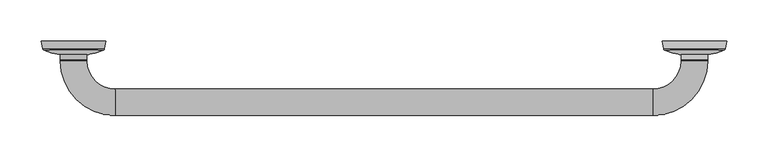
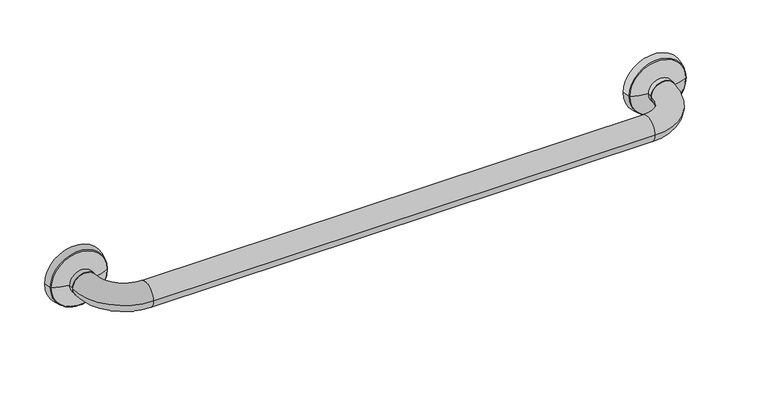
"""IFC4 building model written with IfcOpenShell, lengths in millimetres: proxy geometry, Grab Rail_Metlam_Straight_Horizontal : 782long x 90d x 32h (ML332SS)."""

from ifc_helpers import new_model, si_unit, point, frame, origin, place, context, project, spatial, polyline, circle_curve, ellipse_curve, trimmed, source, transform, mapped, element, save
from ifc_brep_helpers import plane_surface, cylinder_surface, revolved_surface, advanced_brep


def specialty_equipment_b467d5ad(model_context):
    return source(origin(), model_context, "Body", "AdvancedBrep", [
        advanced_brep(
        [(89.0, -58.0, 784.0), (55.0, -24.0, 784.0), (23.0, -24.0, 784.0), (89.0, -90.0, 784.0), (739.0, -90.0, 784.0), (739.0, -58.0, 784.0), (805.0, -24.0, 784.0), (773.0, -24.0, 784.0), (55.0, -23.0, 784.0), (23.0, -23.0, 784.0), (805.0, -23.0, 784.0), (773.0, -23.0, 784.0), (0.0, 0.0, 784.0), (78.0, 0.0, 784.0), (76.1870729, -9.0646354, 784.0), (1.8129271, -9.0646354, 784.0), (2.8615925, -10.4521085, 784.0), (75.1384075, -10.4521085, 784.0), (55.0, -16.0065539, 784.0), (23.0, -16.0065539, 784.0), (39.0, 0.0, 784.0), (828.0, 0.0, 784.0), (750.0, 0.0, 784.0), (789.0, 0.0, 784.0), (826.1870729, -9.0646354, 784.0), (751.8129271, -9.0646354, 784.0), (805.0, -16.0065539, 784.0), (773.0, -16.0065539, 784.0), (752.8615925, -10.4521085, 784.0), (825.1384075, -10.4521085, 784.0)],
        [
            (0, 1, circle_curve(frame((89.0, -24.0, 784.0), z_axis=(0.0, 0.0, -1.0), x_axis=(-1.0, 0.0, 0.0)), 34.0)),
            (1, 2, circle_curve(frame((39.0, -24.0, 784.0), z_axis=(0.0, -1.0, 0.0), x_axis=(1.0, 0.0, 0.0)), 16.0)),
            (2, 3, circle_curve(frame((89.0, -24.0, 784.0), z_axis=(0.0, 0.0, 1.0), x_axis=(-1.0, 0.0, 0.0)), 66.0)),
            (3, 0, circle_curve(frame((89.0, -74.0, 784.0), z_axis=(-1.0, 1.825290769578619e-12, 0.0), x_axis=(1.825290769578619e-12, 1.0, 0.0)), 16.0)),
            (0, 3, circle_curve(frame((89.0, -74.0, 784.0), z_axis=(-1.0, 3.5350342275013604e-12, 0.0), x_axis=(3.5350342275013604e-12, 1.0, 0.0)), 16.0)),
            (2, 1, circle_curve(frame((39.0, -24.0, 784.0), z_axis=(0.0, -1.0, 0.0), x_axis=(1.0, 0.0, 0.0)), 16.0)),
            (3, 4),
            (4, 5, circle_curve(frame((739.0, -74.0, 784.0), z_axis=(-1.0, 0.0, 0.0), x_axis=(0.0, 1.0, 0.0)), 16.0)),
            (5, 0),
            (5, 4, circle_curve(frame((739.0, -74.0, 784.0), z_axis=(-1.0, 0.0, 0.0), x_axis=(0.0, 1.0, 0.0)), 16.0)),
            (4, 6, circle_curve(frame((739.0, -24.0, 784.0), z_axis=(0.0, 0.0, 1.0), x_axis=(0.0, -1.0, 0.0)), 66.0)),
            (6, 7, circle_curve(frame((789.0, -24.0, 784.0), z_axis=(0.0, -1.0, 0.0), x_axis=(-1.0, 0.0, 0.0)), 16.0)),
            (7, 5, circle_curve(frame((739.0, -24.0, 784.0), z_axis=(0.0, 0.0, -1.0), x_axis=(0.0, -1.0, 0.0)), 34.0)),
            (7, 6, circle_curve(frame((789.0, -24.0, 784.0), z_axis=(0.0, -1.0, 0.0), x_axis=(-1.0, 0.0, 0.0)), 16.0)),
            (1, 8),
            (8, 9, circle_curve(frame((39.0, -23.0, 784.0), z_axis=(0.0, -1.0, 0.0), x_axis=(1.0, 0.0, 0.0)), 16.0)),
            (9, 2),
            (9, 8, circle_curve(frame((39.0, -23.0, 784.0), z_axis=(0.0, -1.0, 0.0), x_axis=(1.0, 0.0, 0.0)), 16.0)),
            (6, 10),
            (10, 11, circle_curve(frame((789.0, -23.0, 784.0), z_axis=(0.0, -1.0, 0.0), x_axis=(-1.0, 0.0, 0.0)), 16.0)),
            (11, 7),
            (11, 10, circle_curve(frame((789.0, -23.0, 784.0), z_axis=(0.0, -1.0, 0.0), x_axis=(-1.0, 0.0, 0.0)), 16.0)),
            (12, 13, circle_curve(frame((39.0, 0.0, 784.0), z_axis=(0.0, -1.0, 0.0), x_axis=(1.0, 0.0, 0.0)), 39.0)),
            (13, 14),
            (14, 15, circle_curve(frame((39.0, -9.0646354, 784.0), z_axis=(0.0, 1.0, 0.0), x_axis=(1.0, 0.0, 0.0)), 37.1870729)),
            (15, 12),
            (13, 12, circle_curve(frame((39.0, 0.0, 784.0), z_axis=(0.0, -1.0, 0.0), x_axis=(1.0, 0.0, 0.0)), 39.0)),
            (15, 14, circle_curve(frame((39.0, -9.0646354, 784.0), z_axis=(0.0, 1.0, 0.0), x_axis=(1.0, 0.0, 0.0)), 37.1870729)),
            (16, 17, circle_curve(frame((39.0, -10.4521085, 784.0), z_axis=(0.0, -1.0, 0.0), x_axis=(1.0, 0.0, 0.0)), 36.1384075)),
            (17, 18, circle_curve(frame((51.6887092, 35.2834961, 784.0), z_axis=(0.0, 0.0, -1.0), x_axis=(-1.0, 0.0, 0.0)), 51.3968275)),
            (18, 19, circle_curve(frame((39.0, -16.0065539, 784.0), z_axis=(0.0, 1.0, 0.0), x_axis=(1.0, 0.0, 0.0)), 16.0)),
            (19, 16, circle_curve(frame((26.3112908, 35.2834961, 784.0), z_axis=(0.0, 0.0, -1.0), x_axis=(1.0, 0.0, 0.0)), 51.3968275)),
            (17, 16, circle_curve(frame((39.0, -10.4521085, 784.0), z_axis=(0.0, -1.0, 0.0), x_axis=(1.0, 0.0, 0.0)), 36.1384075)),
            (19, 18, circle_curve(frame((39.0, -16.0065539, 784.0), z_axis=(0.0, 1.0, 0.0), x_axis=(1.0, 0.0, 0.0)), 16.0)),
            (18, 8),
            (9, 19),
            (12, 20),
            (20, 13),
            (14, 17, circle_curve(frame((74.2259116, -8.6724031, 784.0), z_axis=(0.0, 0.0, -1.0), x_axis=(-1.0, 0.0, 0.0)), 2.0)),
            (16, 15, circle_curve(frame((3.7740884, -8.6724031, 784.0), z_axis=(0.0, 0.0, -1.0), x_axis=(1.0, 0.0, 0.0)), 2.0)),
            (21, 22, circle_curve(frame((789.0, 0.0, 784.0), z_axis=(0.0, 1.0, 0.0), x_axis=(-1.0, 0.0, 0.0)), 39.0)),
            (22, 23),
            (23, 21),
            (22, 21, circle_curve(frame((789.0, 0.0, 784.0), z_axis=(0.0, 1.0, 0.0), x_axis=(-1.0, 0.0, 0.0)), 39.0)),
            (21, 24),
            (24, 25, circle_curve(frame((789.0, -9.0646354, 784.0), z_axis=(0.0, 1.0, 0.0), x_axis=(-1.0, 0.0, 0.0)), 37.1870729)),
            (25, 22),
            (25, 24, circle_curve(frame((789.0, -9.0646354, 784.0), z_axis=(0.0, 1.0, 0.0), x_axis=(-1.0, 0.0, 0.0)), 37.1870729)),
            (26, 27, circle_curve(frame((789.0, -16.0065539, 784.0), z_axis=(0.0, 1.0, 0.0), x_axis=(-1.0, 0.0, 0.0)), 16.0)),
            (27, 28, circle_curve(frame((776.3112908, 35.2834961, 784.0), z_axis=(0.0, 0.0, -1.0), x_axis=(-1.0, 0.0, 0.0)), 51.3968275)),
            (28, 29, circle_curve(frame((789.0, -10.4521085, 784.0), z_axis=(0.0, -1.0, 0.0), x_axis=(-1.0, 0.0, 0.0)), 36.1384075)),
            (29, 26, circle_curve(frame((801.6887092, 35.2834961, 784.0), z_axis=(0.0, 0.0, -1.0), x_axis=(1.0, 0.0, 0.0)), 51.3968275)),
            (27, 26, circle_curve(frame((789.0, -16.0065539, 784.0), z_axis=(0.0, 1.0, 0.0), x_axis=(-1.0, 0.0, 0.0)), 16.0)),
            (29, 28, circle_curve(frame((789.0, -10.4521085, 784.0), z_axis=(0.0, -1.0, 0.0), x_axis=(-1.0, 0.0, 0.0)), 36.1384075)),
            (26, 10),
            (11, 27),
            (24, 29, circle_curve(frame((824.2259116, -8.6724031, 784.0), z_axis=(0.0, 0.0, -1.0), x_axis=(1.0, 0.0, 0.0)), 2.0)),
            (28, 25, circle_curve(frame((753.7740884, -8.6724031, 784.0), z_axis=(0.0, 0.0, -1.0), x_axis=(-1.0, 0.0, 0.0)), 2.0)),
        ],
        [
            revolved_surface(trimmed(ellipse_curve(frame((39.0, -24.0, 784.0), z_axis=(0.0, 1.0, 0.0), x_axis=(1.0, 0.0, 0.0)), 16.0, 16.0), [point((23.0, -24.0, 784.0))], [point((55.0, -24.0, 784.0))], True, "CARTESIAN"), (89.0, -24.0, 784.0), (0.0, 0.0, 1.0)),
            revolved_surface(trimmed(ellipse_curve(frame((39.0, -24.0, 784.0), z_axis=(0.0, 1.0, 0.0), x_axis=(1.0, 0.0, 0.0)), 16.0, 16.0), [point((55.0, -24.0, 784.0))], [point((23.0, -24.0, 784.0))], True, "CARTESIAN"), (89.0, -24.0, 784.0), (0.0, 0.0, 1.0)),
            cylinder_surface(frame((89.0, -74.0, 784.0), z_axis=(-1.0, 0.0, 0.0), x_axis=(0.0, 1.0, 0.0)), 16.0),
            revolved_surface(trimmed(ellipse_curve(frame((739.0, -74.0, 784.0), z_axis=(-1.0, 0.0, 0.0), x_axis=(0.0, 1.0, 0.0)), 16.0, 16.0), [point((739.0, -90.0, 784.0))], [point((739.0, -58.0, 784.0))], True, "CARTESIAN"), (739.0, -24.0, 784.0), (0.0, 0.0, 1.0)),
            revolved_surface(trimmed(ellipse_curve(frame((739.0, -74.0, 784.0), z_axis=(-1.0, 0.0, 0.0), x_axis=(0.0, 1.0, 0.0)), 16.0, 16.0), [point((739.0, -58.0, 784.0))], [point((739.0, -90.0, 784.0))], True, "CARTESIAN"), (739.0, -24.0, 784.0), (0.0, 0.0, 1.0)),
            cylinder_surface(frame((39.0, -23.0, 784.0), z_axis=(0.0, 1.0, 0.0), x_axis=(1.0, 0.0, 0.0)), 16.0),
            cylinder_surface(frame((789.0, -24.0, 784.0), z_axis=(0.0, -1.0, 0.0), x_axis=(-1.0, 0.0, 0.0)), 16.0),
            revolved_surface(polyline([(76.1870729, -9.0646354, 784.0), (78.0, 0.0, 784.0)]), (39.0, -10.0, 784.0), (0.0, 1.0, 0.0)),
            revolved_surface(trimmed(ellipse_curve(frame((51.6887092, 35.2834961, 784.0), z_axis=(0.0, 0.0, 1.0), x_axis=(-1.0, 0.0, 0.0)), 51.3968275, 51.3968275), [point((55.0, -16.0065539, 784.0))], [point((75.1384075, -10.4521085, 784.0))], True, "CARTESIAN"), (39.0, -10.0, 784.0), (0.0, 1.0, 0.0)),
            cylinder_surface(frame((39.0, -10.0, 784.0), z_axis=(0.0, 1.0, 0.0), x_axis=(1.0, 0.0, 0.0)), 16.0),
            plane_surface(frame((39.0, 0.0, 784.0), z_axis=(0.0, 1.0, 0.0), x_axis=(1.0, 0.0, 0.0))),
            revolved_surface(trimmed(ellipse_curve(frame((74.2259116, -8.6724031, 784.0), z_axis=(0.0, 0.0, 1.0), x_axis=(-1.0, 0.0, 0.0)), 2.0, 2.0), [point((75.1384075, -10.4521085, 784.0))], [point((76.1870729, -9.0646354, 784.0))], True, "CARTESIAN"), (39.0, -10.0, 784.0), (0.0, 1.0, 0.0)),
            plane_surface(frame((789.0, 0.0, 784.0), z_axis=(0.0, 1.0, 0.0), x_axis=(-1.0, 0.0, 0.0))),
            revolved_surface(polyline([(750.0, 0.0, 784.0), (751.8129271, -9.0646354, 784.0)]), (789.0, -10.0, 784.0), (0.0, -1.0, 0.0)),
            revolved_surface(trimmed(ellipse_curve(frame((776.3112908, 35.2834961, 784.0), z_axis=(0.0, 0.0, 1.0), x_axis=(-1.0, 0.0, 0.0)), 51.3968275, 51.3968275), [point((752.8615925, -10.4521085, 784.0))], [point((773.0, -16.0065539, 784.0))], True, "CARTESIAN"), (789.0, -10.0, 784.0), (0.0, -1.0, 0.0)),
            cylinder_surface(frame((789.0, -10.0, 784.0), z_axis=(0.0, -1.0, 0.0), x_axis=(-1.0, 0.0, 0.0)), 16.0),
            revolved_surface(trimmed(ellipse_curve(frame((753.7740884, -8.6724031, 784.0), z_axis=(0.0, 0.0, 1.0), x_axis=(-1.0, 0.0, 0.0)), 2.0, 2.0), [point((751.8129271, -9.0646354, 784.0))], [point((752.8615925, -10.4521085, 784.0))], True, "CARTESIAN"), (789.0, -10.0, 784.0), (0.0, -1.0, 0.0)),
        ],
        [
            (0, [[1, 2, 3, 4]]),
            (1, [[-1, 5, -3, 6]]),
            (2, [[-4, 7, 8, 9]]),
            (2, [[-5, -9, 10, -7]]),
            (3, [[-8, 11, 12, 13]]),
            (4, [[-10, -13, 14, -11]]),
            (5, [[-2, 15, 16, 17]]),
            (5, [[-6, -17, 18, -15]]),
            (6, [[-12, 19, 20, 21]]),
            (6, [[-14, -21, 22, -19]]),
            (7, [[23, 24, 25, 26]]),
            (7, [[-24, 27, -26, 28]]),
            (8, [[29, 30, 31, 32]]),
            (8, [[-30, 33, -32, 34]]),
            (9, [[-31, 35, -18, 36]]),
            (9, [[-34, -36, -16, -35]]),
            (10, [[-23, 37, 38]]),
            (10, [[-27, -38, -37]]),
            (11, [[-25, 39, -29, 40]]),
            (11, [[-28, -40, -33, -39]]),
            (12, [[41, 42, 43]]),
            (12, [[-42, 44, -43]]),
            (13, [[-41, 45, 46, 47]]),
            (13, [[-44, -47, 48, -45]]),
            (14, [[49, 50, 51, 52]]),
            (14, [[-50, 53, -52, 54]]),
            (15, [[-49, 55, -22, 56]]),
            (15, [[-53, -56, -20, -55]]),
            (16, [[-46, 57, -51, 58]]),
            (16, [[-48, -58, -54, -57]]),
        ],
    ),
    ])


if __name__ == "__main__":
    model = new_model("IFC4")
    model_context = context("Model", 3, world=origin())
    ifc_project = project(units=[si_unit("LENGTHUNIT", "METRE", prefix="MILLI")], contexts=[model_context])
    site = spatial("IfcSite", under=ifc_project)
    building = spatial("IfcBuilding", under=site)
    placement = place(None, origin())
    specialty_equipment_shape = specialty_equipment_b467d5ad(model_context)
    element("IfcBuildingElementProxy", 1, Name="Grab Rail_Metlam_Straight_Horizontal : 782long x 90d x 32h (ML332SS)", ObjectType="Grab Rail_Metlam_Straight_Horizontal : 782long x 90d x 32h (ML332SS)", at=placement, inside=building, context=model_context, shape_type="MappedRepresentation", body=[
        mapped(specialty_equipment_shape, transform((0.0, 0.0, 0.0), x_axis=(1.0, 0.0, 0.0), y_axis=(0.0, 1.0, 0.0), z_axis=(0.0, 0.0, 1.0))),
    ])
    save(model, "model.ifc")
